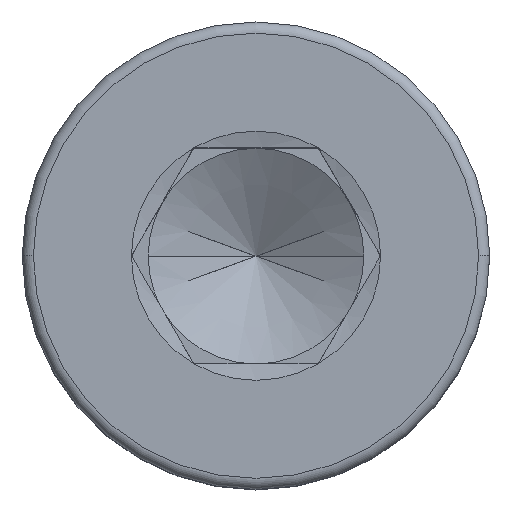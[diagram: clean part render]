
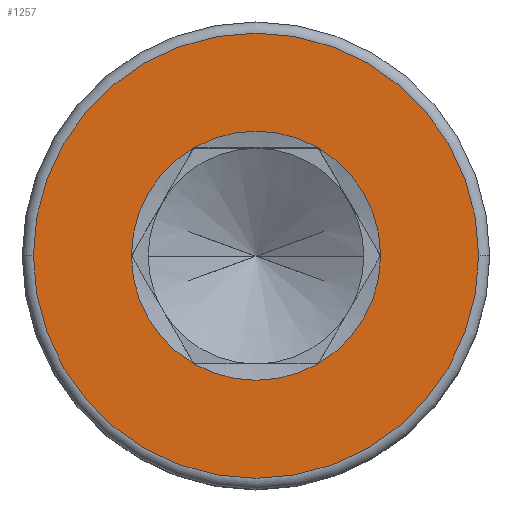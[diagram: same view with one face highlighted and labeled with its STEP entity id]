
A CAD part, top view. The second image highlights one B-rep face of the part: STEP entity #1257.
In plain terms, the highlighted planar face has unit normal (0, 0, 1).
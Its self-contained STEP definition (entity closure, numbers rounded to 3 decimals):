
#41 = CARTESIAN_POINT ( 'NONE',  ( 0., 0., 8. ) ) ;
#55 = VERTEX_POINT ( 'NONE', #882 ) ;
#176 = CIRCLE ( 'NONE', #1190, 3.464 ) ;
#207 = AXIS2_PLACEMENT_3D ( 'NONE', #1409, #567, #579 ) ;
#208 = PLANE ( 'NONE',  #518 ) ;
#212 = VERTEX_POINT ( 'NONE', #383 ) ;
#233 = DIRECTION ( 'NONE',  ( 0., 0., 1. ) ) ;
#272 = EDGE_CURVE ( 'NONE', #920, #212, #652, .T. ) ;
#276 = ORIENTED_EDGE ( 'NONE', *, *, #675, .F. ) ;
#312 = DIRECTION ( 'NONE',  ( 0., 0., 1. ) ) ;
#330 = DIRECTION ( 'NONE',  ( 0., 0., 1. ) ) ;
#334 = CARTESIAN_POINT ( 'NONE',  ( 0., 0., 8. ) ) ;
#352 = DIRECTION ( 'NONE',  ( 0., 0., 1. ) ) ;
#365 = FACE_BOUND ( 'NONE', #1416, .T. ) ;
#369 = DIRECTION ( 'NONE',  ( 1., 0., 0. ) ) ;
#383 = CARTESIAN_POINT ( 'NONE',  ( 6.19, 0., 8. ) ) ;
#428 = ORIENTED_EDGE ( 'NONE', *, *, #1743, .F. ) ;
#497 = DIRECTION ( 'NONE',  ( 1., 0., 0. ) ) ;
#518 = AXIS2_PLACEMENT_3D ( 'NONE', #918, #233, #908 ) ;
#550 = AXIS2_PLACEMENT_3D ( 'NONE', #1199, #1483, #497 ) ;
#565 = EDGE_CURVE ( 'NONE', #721, #55, #1567, .T. ) ;
#567 = DIRECTION ( 'NONE',  ( 0., 0., 1. ) ) ;
#579 = DIRECTION ( 'NONE',  ( 1., 0., 0. ) ) ;
#582 = CARTESIAN_POINT ( 'NONE',  ( 0., 0., 8. ) ) ;
#600 = DIRECTION ( 'NONE',  ( 1., 0., 0. ) ) ;
#652 = CIRCLE ( 'NONE', #1014, 6.19 ) ;
#663 = DIRECTION ( 'NONE',  ( 0., 0., 1. ) ) ;
#675 = EDGE_CURVE ( 'NONE', #919, #852, #984, .T. ) ;
#688 = AXIS2_PLACEMENT_3D ( 'NONE', #334, #1592, #600 ) ;
#721 = VERTEX_POINT ( 'NONE', #1603 ) ;
#726 = AXIS2_PLACEMENT_3D ( 'NONE', #892, #352, #1145 ) ;
#747 = VERTEX_POINT ( 'NONE', #1428 ) ;
#764 = ORIENTED_EDGE ( 'NONE', *, *, #272, .T. ) ;
#775 = AXIS2_PLACEMENT_3D ( 'NONE', #582, #1696, #996 ) ;
#841 = CIRCLE ( 'NONE', #1461, 3.464 ) ;
#852 = VERTEX_POINT ( 'NONE', #1559 ) ;
#882 = CARTESIAN_POINT ( 'NONE',  ( -3.464, 0., 8. ) ) ;
#892 = CARTESIAN_POINT ( 'NONE',  ( 0., 0., 8. ) ) ;
#900 = CIRCLE ( 'NONE', #726, 3.464 ) ;
#908 = DIRECTION ( 'NONE',  ( 1., 0., 0. ) ) ;
#912 = ORIENTED_EDGE ( 'NONE', *, *, #1501, .F. ) ;
#918 = CARTESIAN_POINT ( 'NONE',  ( 0., 0., 8. ) ) ;
#919 = VERTEX_POINT ( 'NONE', #1646 ) ;
#920 = VERTEX_POINT ( 'NONE', #1530 ) ;
#984 = CIRCLE ( 'NONE', #688, 3.464 ) ;
#996 = DIRECTION ( 'NONE',  ( 1., 0., 0. ) ) ;
#1012 = EDGE_CURVE ( 'NONE', #852, #1614, #176, .T. ) ;
#1014 = AXIS2_PLACEMENT_3D ( 'NONE', #1206, #663, #369 ) ;
#1042 = CARTESIAN_POINT ( 'NONE',  ( 1.732, 3., 8. ) ) ;
#1044 = EDGE_CURVE ( 'NONE', #212, #920, #1427, .T. ) ;
#1136 = ORIENTED_EDGE ( 'NONE', *, *, #1044, .T. ) ;
#1145 = DIRECTION ( 'NONE',  ( 1., 0., 0. ) ) ;
#1190 = AXIS2_PLACEMENT_3D ( 'NONE', #1268, #312, #1311 ) ;
#1199 = CARTESIAN_POINT ( 'NONE',  ( 0., 0., 8. ) ) ;
#1206 = CARTESIAN_POINT ( 'NONE',  ( 0., 0., 8. ) ) ;
#1257 = ADVANCED_FACE ( 'NONE', ( #1613, #365 ), #208, .T. ) ;
#1268 = CARTESIAN_POINT ( 'NONE',  ( 0., 0., 8. ) ) ;
#1311 = DIRECTION ( 'NONE',  ( 1., 0., 0. ) ) ;
#1325 = ORIENTED_EDGE ( 'NONE', *, *, #1518, .F. ) ;
#1409 = CARTESIAN_POINT ( 'NONE',  ( 0., 0., 8. ) ) ;
#1416 = EDGE_LOOP ( 'NONE', ( #1746, #276, #428, #912, #1476, #1325 ) ) ;
#1427 = CIRCLE ( 'NONE', #207, 6.19 ) ;
#1428 = CARTESIAN_POINT ( 'NONE',  ( -1.732, -3., 8. ) ) ;
#1461 = AXIS2_PLACEMENT_3D ( 'NONE', #41, #330, #1720 ) ;
#1476 = ORIENTED_EDGE ( 'NONE', *, *, #565, .F. ) ;
#1483 = DIRECTION ( 'NONE',  ( 0., 0., 1. ) ) ;
#1501 = EDGE_CURVE ( 'NONE', #55, #747, #841, .T. ) ;
#1518 = EDGE_CURVE ( 'NONE', #1614, #721, #900, .T. ) ;
#1530 = CARTESIAN_POINT ( 'NONE',  ( -6.19, 0., 8. ) ) ;
#1541 = CIRCLE ( 'NONE', #550, 3.464 ) ;
#1559 = CARTESIAN_POINT ( 'NONE',  ( 3.464, 0., 8. ) ) ;
#1567 = CIRCLE ( 'NONE', #775, 3.464 ) ;
#1590 = EDGE_LOOP ( 'NONE', ( #1136, #764 ) ) ;
#1592 = DIRECTION ( 'NONE',  ( 0., 0., 1. ) ) ;
#1603 = CARTESIAN_POINT ( 'NONE',  ( -1.732, 3., 8. ) ) ;
#1613 = FACE_OUTER_BOUND ( 'NONE', #1590, .T. ) ;
#1614 = VERTEX_POINT ( 'NONE', #1042 ) ;
#1646 = CARTESIAN_POINT ( 'NONE',  ( 1.732, -3., 8. ) ) ;
#1696 = DIRECTION ( 'NONE',  ( 0., 0., 1. ) ) ;
#1720 = DIRECTION ( 'NONE',  ( 1., 0., 0. ) ) ;
#1743 = EDGE_CURVE ( 'NONE', #747, #919, #1541, .T. ) ;
#1746 = ORIENTED_EDGE ( 'NONE', *, *, #1012, .F. ) ;
